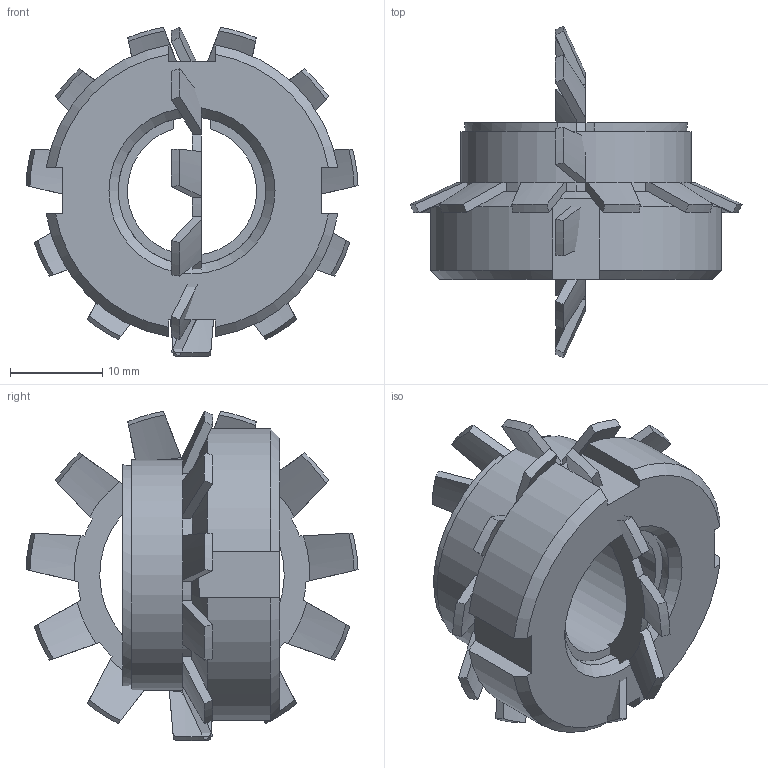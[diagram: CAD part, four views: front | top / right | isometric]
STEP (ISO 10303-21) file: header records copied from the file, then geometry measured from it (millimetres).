
FILE_DESCRIPTION( ( 'Unknown' ), '1' );
FILE_NAME( 'C:/Dokumente und Einstellungen/Sven/Desktop/homepage/cad - homepage/KBS51/KBS 51 - 14 x 25.stp', 'Unknown', ( 'Unknown' ), ( 'Unknown' ), 'XStep 1.0', 'Unknown', ' ' );
FILE_SCHEMA( ( 'automotive_design' ) );
Length unit declared in the file: millimetre
Products named in the file (3): Assem1; KBS 51 - 14 x 25; 08570040_locking_plate_din_5406_mb_4_2_14a
Bounding box: 35.98 x 35.98 x 35.72 mm (x, y, z)
Volume: 16245.3 mm3; surface area: 9546 mm2
Topology: 4 solids, 4 shells, 216 faces, 616 edges, 408 vertices
Faces by surface type: plane 96, cone 82, cylinder 38
Full cylindrical faces by diameter (mm): 16 x2, 25 x2
Entity records: 3880 total; most frequent: CARTESIAN_POINT 807, ORIENTED_EDGE 604, DIRECTION 572, EDGE_CURVE 302, AXIS2_PLACEMENT_3D 225, VERTEX_POINT 202, LINE 122, VECTOR 122
